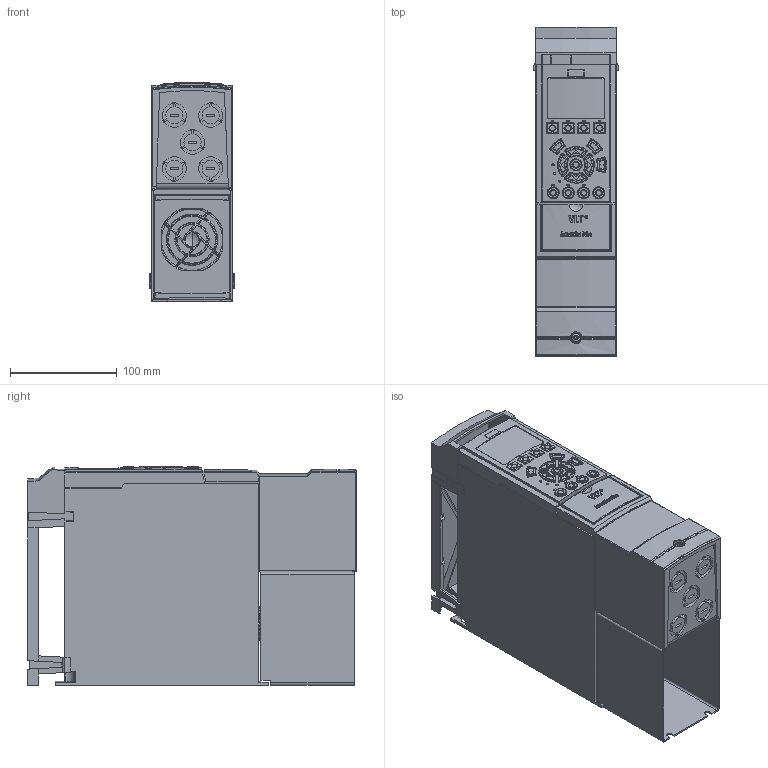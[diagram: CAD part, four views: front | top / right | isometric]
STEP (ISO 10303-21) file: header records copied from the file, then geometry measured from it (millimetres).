
FILE_DESCRIPTION((''),'2;1');
FILE_NAME('DANFOSS-FC300-A1-IP21-093','2007-03-20T',('vijayanandg'),('dan Drives A/S'),'PRO/ENGINEER BY PARAMETRIC TECHNOLOGY CORPORATION, 2006200','PRO/ENGINEER BY PARAMETRIC TECHNOLOGY CORPORATION, 2006200','');
FILE_SCHEMA(('CONFIG_CONTROL_DESIGN', 'GEOMETRIC_VALIDATION_PROPERTIES_MIM'));
Products named in the file (1): DANFOSS-FC300-A1-IP21-093
Bounding box: 79.22 x 308 x 205.1 mm (x, y, z)
Volume: 3376599.4 mm3; surface area: 331242.1 mm2
Topology: 3 solids, 19 shells, 2373 faces, 6133 edges, 3847 vertices
Faces by surface type: plane 836, cylinder 610, bspline 582, extrusion 174, torus 110, sphere 31, cone 30
Entity records: 137488 total; most frequent: CARTESIAN_POINT 49321, ORIENTED_EDGE 12252, DIRECTION 8404, PRESENTATION_STYLE_ASSIGNMENT 8121, STYLED_ITEM 6327, CURVE_STYLE 6300, EDGE_CURVE 6126, VERTEX_POINT 3847
